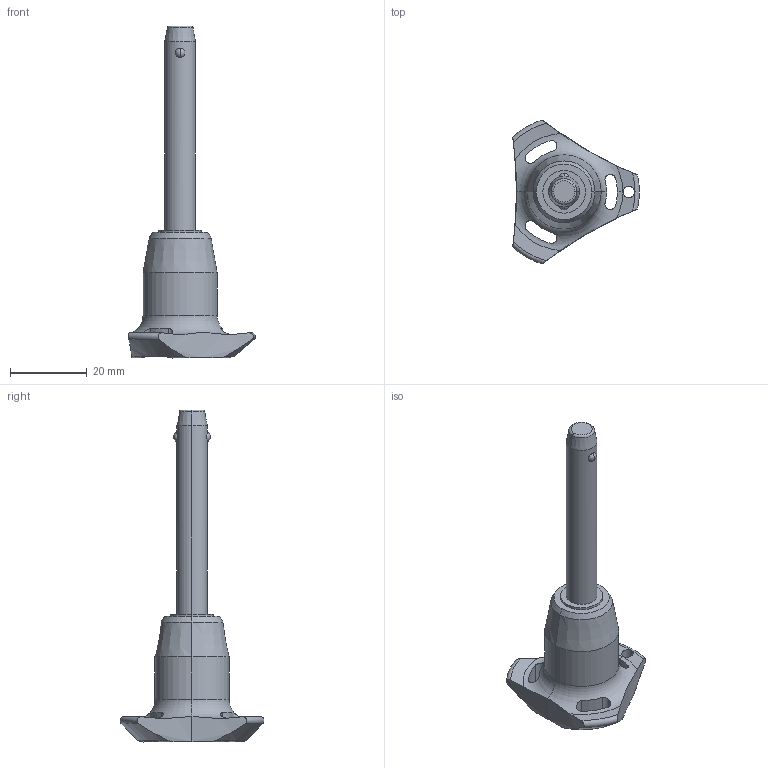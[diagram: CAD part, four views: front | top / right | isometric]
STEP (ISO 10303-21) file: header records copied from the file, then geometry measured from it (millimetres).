
FILE_DESCRIPTION (( 'STEP AP203' ), '1' );
FILE_NAME ('QR1734.M08-045-S.step', '2025-11-12T14:21:37', ( '' ), ( '' ), 'SwSTEP 2.0', 'SolidWorks 2019', '' );
FILE_SCHEMA (( 'CONFIG_CONTROL_DESIGN' ));
Length unit declared in the file: millimetre
Products named in the file (1): QR1734.M08-045-S
Bounding box: 33 x 37.51 x 86.5 mm (x, y, z)
Volume: 12912.2 mm3; surface area: 5185.6 mm2
Topology: 1 solids, 1 shells, 65 faces, 174 edges, 109 vertices
Faces by surface type: cylinder 30, cone 14, torus 11, sphere 6, plane 4
Entity records: 2746 total; most frequent: CARTESIAN_POINT 1073, ORIENTED_EDGE 348, DIRECTION 331, EDGE_CURVE 174, AXIS2_PLACEMENT_3D 147, VERTEX_POINT 109, CIRCLE 81, EDGE_LOOP 71
